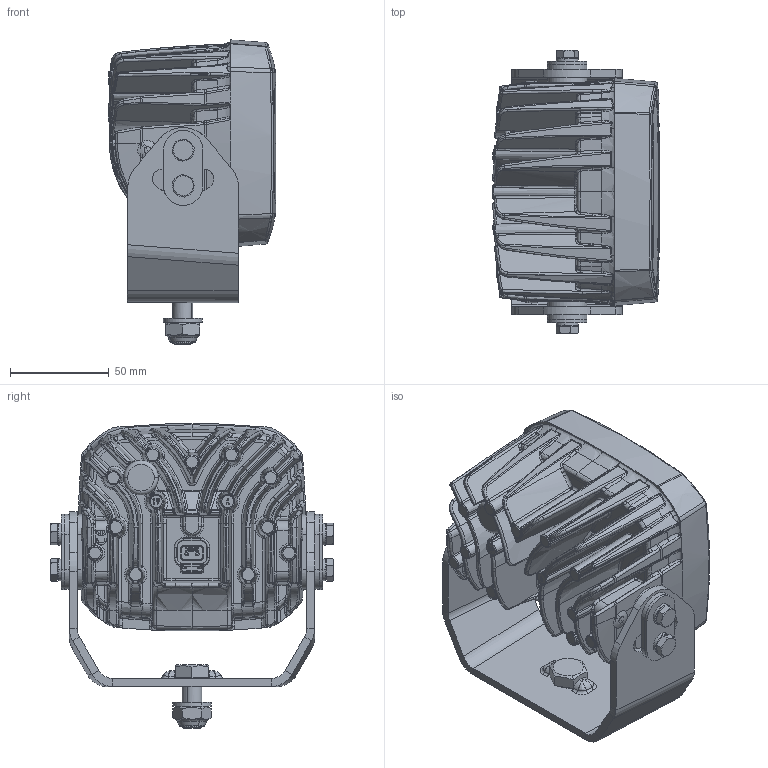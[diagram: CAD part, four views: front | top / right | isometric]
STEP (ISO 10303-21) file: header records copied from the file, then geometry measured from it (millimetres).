
FILE_DESCRIPTION(('CATIA V5 STEP Exchange','CAx-IF Rec.Pracs.--- Model Styling and Organization---1.5--- 2016-08-15','CAx-IF Rec.Pracs.---Supplemental Geometry---1.0---2011-11-01','CAx-IF Rec.Pracs.--- Composite Materials ---1.1---2010-07-15'),'2;1');
FILE_NAME('E:\tmp\ddx\2011218\HELLA_3D_data_Ultra_Beam_LED_Gen_2_Heavy_Duty_Bracket_1GA-995-606-07.stp','2022-01-18T07:24:56+00:00',('none'),('none'),'CATIA Version 5-6 Release 2020 SP3 HF9','CATIA V5 STEP AP214 Edition 3 v2','none');
FILE_SCHEMA(('AUTOMOTIVE_DESIGN { 1 0 10303 214 3 1 1 1 }'));
Products named in the file (1): 10002316636_D10_001
Bounding box: 84.49 x 143.1 x 153.89 mm (x, y, z)
Volume: 647751.5 mm3; surface area: 139096.5 mm2
Topology: 2 solids, 8 shells, 2940 faces, 7288 edges, 4269 vertices
Faces by surface type: bspline 1280, plane 527, cylinder 357, extrusion 227, cone 210, torus 169, sphere 98, revolution 72
Entity records: 163078 total; most frequent: CARTESIAN_POINT 108948, ORIENTED_EDGE 14328, EDGE_CURVE 7164, DIRECTION 5196, B_SPLINE_CURVE_WITH_KNOTS 4613, VERTEX_POINT 4269, EDGE_LOOP 3017, ADVANCED_FACE 2940
